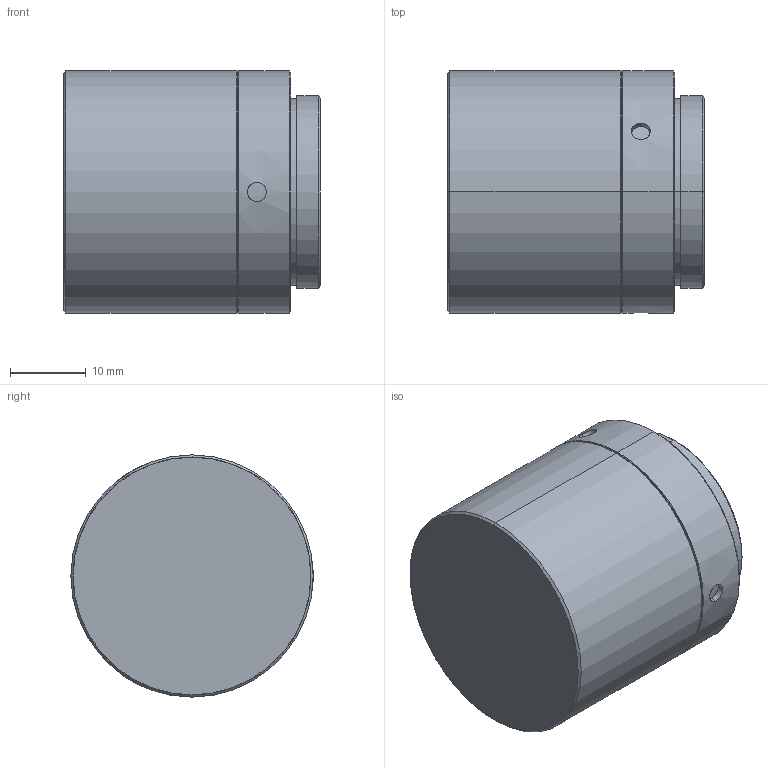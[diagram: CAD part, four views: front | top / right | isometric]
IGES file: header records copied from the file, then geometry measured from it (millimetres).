
Start section: SolidWorks IGES file using analytic representation for surfaces
Global section: file name: 9HF:\A负责系列\WWT\118-25\WWT118-02-130S(118-25)\WWT118-02-130\WWT230-02-130S.IGS; native system: SolidWorks 2017; preprocessor: SolidWorks 2017; author: 16255; date: 240412.214439; units: millimetre
Bounding box: 33.92 x 32 x 32 mm (x, y, z)
Surface area: 5126.9 mm2 (no closed solid volume)
Topology: 0 solids, 0 shells, 35 faces, 892 edges, 892 vertices
Faces by surface type: revolution 29, bspline 6
